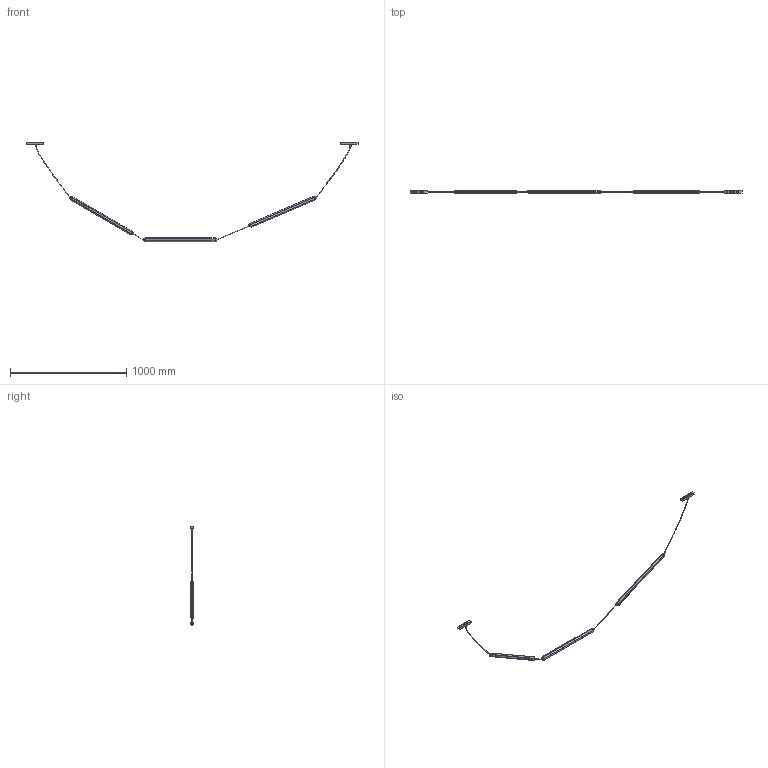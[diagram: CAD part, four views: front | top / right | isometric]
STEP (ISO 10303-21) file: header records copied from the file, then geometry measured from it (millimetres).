
FILE_DESCRIPTION(/* description */ (''),/* implementation_level */ '2;1');
FILE_NAME(/* name */ '64642141_3d',/* time_stamp */ '2026-05-11T14:53:07+02:00',/* author */ (''),/* organization */ (''),/* preprocessor_version */ 'ST-DEVELOPER v19.2',/* originating_system */ 'Rhino 8.30',/* authorisation */ '');
FILE_SCHEMA (('CONFIG_CONTROL_DESIGN'));
Length unit declared in the file: millimetre
Products named in the file (1): Document
Bounding box: 2861.21 x 30.39 x 857.83 mm (x, y, z)
Volume: 689210.4 mm3; surface area: 344032.3 mm2
Topology: 15 solids, 99 shells, 389 faces, 1271 edges, 950 vertices
Faces by surface type: cylinder 197, plane 172, bspline 20
Entity records: 18289 total; most frequent: CARTESIAN_POINT 8594, ORIENTED_EDGE 2118, EDGE_CURVE 1259, DIRECTION 1115, VERTEX_POINT 950, B_SPLINE_CURVE_WITH_KNOTS 847, AXIS2_PLACEMENT_3D 742, EDGE_LOOP 441
